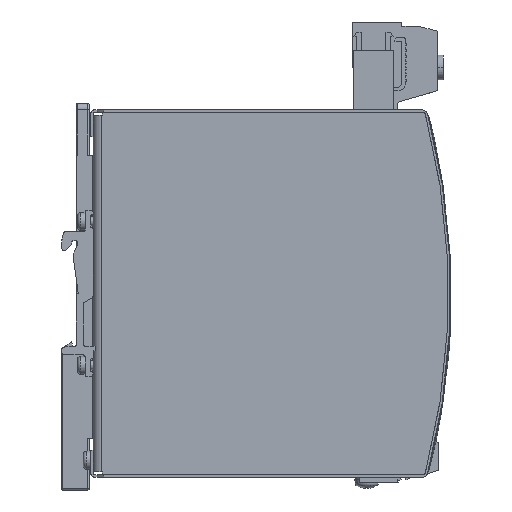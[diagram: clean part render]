
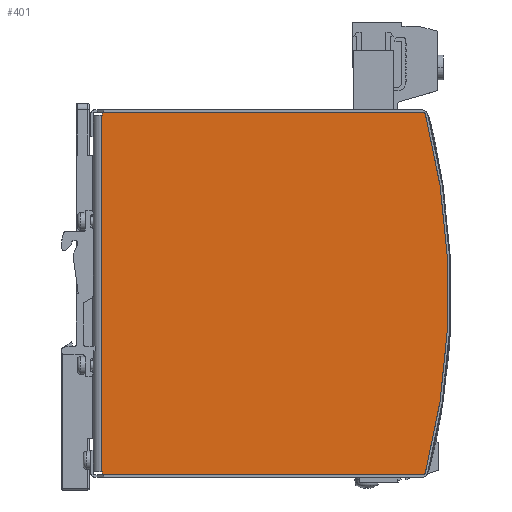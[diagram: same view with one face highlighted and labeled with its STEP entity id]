
A CAD part, front view. The second image highlights one B-rep face of the part: STEP entity #401.
In plain terms, the highlighted planar face has unit normal (0, -1, 0).
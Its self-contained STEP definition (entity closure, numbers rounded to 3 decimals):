
#260=CARTESIAN_POINT('',(112.177,-23.,-60.777));
#261=VERTEX_POINT('',#260);
#262=CARTESIAN_POINT('',(111.693,-23.,-61.15));
#263=VERTEX_POINT('',#262);
#264=CARTESIAN_POINT('',(111.693,-23.,-60.65));
#265=DIRECTION('',(0.0,1.,0.0));
#266=DIRECTION('',(0.611,0.0,-0.792));
#267=AXIS2_PLACEMENT_3D('',#264,#265,#266);
#268=CIRCLE('',#267,0.5);
#269=EDGE_CURVE('',#261,#263,#268,.T.);
#303=CARTESIAN_POINT('',(3.1,-23.0,-61.15));
#304=VERTEX_POINT('',#303);
#305=CARTESIAN_POINT('',(111.693,-23.,-61.15));
#306=DIRECTION('',(-1.0,0.0,0.0));
#307=VECTOR('',#306,108.593);
#308=LINE('',#305,#307);
#309=EDGE_CURVE('',#263,#304,#308,.T.);
#328=CARTESIAN_POINT('',(130.0,-23.,-61.15));
#329=DIRECTION('',(0.0,-1.0,0.0));
#330=DIRECTION('',(0.0,0.0,-1.0));
#331=AXIS2_PLACEMENT_3D('',#328,#329,#330);
#332=PLANE('',#331);
#333=ORIENTED_EDGE('',*,*,#269,.F.);
#334=CARTESIAN_POINT('',(112.177,-23.,60.777));
#335=VERTEX_POINT('',#334);
#336=CARTESIAN_POINT('',(-120.,-23.,0.));
#337=DIRECTION('',(0.0,-1.,0.0));
#338=DIRECTION('',(-0.967,0.0,-0.255));
#339=AXIS2_PLACEMENT_3D('',#336,#337,#338);
#340=CIRCLE('',#339,240.0);
#341=EDGE_CURVE('',#261,#335,#340,.T.);
#342=ORIENTED_EDGE('',*,*,#341,.T.);
#343=CARTESIAN_POINT('',(111.693,-23.,61.15));
#344=VERTEX_POINT('',#343);
#345=CARTESIAN_POINT('',(111.693,-23.,60.65));
#346=DIRECTION('',(0.0,1.0,0.0));
#347=DIRECTION('',(0.611,0.0,0.792));
#348=AXIS2_PLACEMENT_3D('',#345,#346,#347);
#349=CIRCLE('',#348,0.5);
#350=EDGE_CURVE('',#344,#335,#349,.T.);
#351=ORIENTED_EDGE('',*,*,#350,.F.);
#352=CARTESIAN_POINT('',(3.1,-23.0,61.15));
#353=VERTEX_POINT('',#352);
#354=CARTESIAN_POINT('',(111.693,-23.,61.15));
#355=DIRECTION('',(-1.0,0.0,0.0));
#356=VECTOR('',#355,108.593);
#357=LINE('',#354,#356);
#358=EDGE_CURVE('',#344,#353,#357,.T.);
#359=ORIENTED_EDGE('',*,*,#358,.T.);
#360=CARTESIAN_POINT('',(3.1,-23.0,60.15));
#361=VERTEX_POINT('',#360);
#362=CARTESIAN_POINT('',(3.1,-23.0,61.15));
#363=DIRECTION('',(0.0,0.0,-1.0));
#364=VECTOR('',#363,1.);
#365=LINE('',#362,#364);
#366=EDGE_CURVE('',#353,#361,#365,.T.);
#367=ORIENTED_EDGE('',*,*,#366,.T.);
#368=CARTESIAN_POINT('',(3.,-23.0,60.15));
#369=VERTEX_POINT('',#368);
#370=CARTESIAN_POINT('',(3.1,-23.0,60.15));
#371=DIRECTION('',(-1.0,0.0,0.0));
#372=VECTOR('',#371,0.1);
#373=LINE('',#370,#372);
#374=EDGE_CURVE('',#361,#369,#373,.T.);
#375=ORIENTED_EDGE('',*,*,#374,.T.);
#376=CARTESIAN_POINT('',(3.,-23.0,-60.15));
#377=VERTEX_POINT('',#376);
#378=CARTESIAN_POINT('',(3.,-23.0,60.15));
#379=DIRECTION('',(0.0,0.0,-1.0));
#380=VECTOR('',#379,120.3);
#381=LINE('',#378,#380);
#382=EDGE_CURVE('',#369,#377,#381,.T.);
#383=ORIENTED_EDGE('',*,*,#382,.T.);
#384=CARTESIAN_POINT('',(3.1,-23.0,-60.15));
#385=VERTEX_POINT('',#384);
#386=CARTESIAN_POINT('',(3.0,-23.0,-60.15));
#387=DIRECTION('',(1.0,0.0,0.0));
#388=VECTOR('',#387,0.1);
#389=LINE('',#386,#388);
#390=EDGE_CURVE('',#377,#385,#389,.T.);
#391=ORIENTED_EDGE('',*,*,#390,.T.);
#392=CARTESIAN_POINT('',(3.1,-23.0,-60.15));
#393=DIRECTION('',(0.0,0.0,-1.0));
#394=VECTOR('',#393,1.0);
#395=LINE('',#392,#394);
#396=EDGE_CURVE('',#385,#304,#395,.T.);
#397=ORIENTED_EDGE('',*,*,#396,.T.);
#398=ORIENTED_EDGE('',*,*,#309,.F.);
#399=EDGE_LOOP('',(#333,#342,#351,#359,#367,#375,#383,#391,#397,#398));
#400=FACE_OUTER_BOUND('',#399,.T.);
#401=ADVANCED_FACE('',(#400),#332,.T.);
